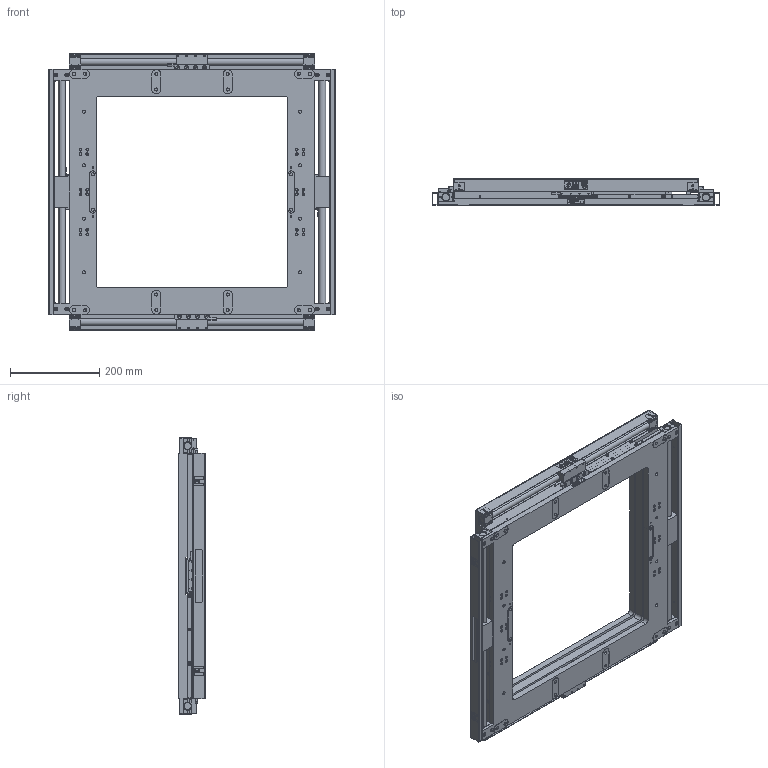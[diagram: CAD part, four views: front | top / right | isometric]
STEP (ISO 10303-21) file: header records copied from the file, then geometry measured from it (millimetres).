
FILE_DESCRIPTION (( 'STEP AP203' ), '1' );
FILE_NAME ('PLE-550-550-S320-EC0001-TD 中空XY轴精密位移模组(商用3D档).STEP', '2025-09-29T07:55:04', ( '' ), ( '' ), 'SwSTEP 2.0', 'SolidWorks 2022', '' );
FILE_SCHEMA (( 'CONFIG_CONTROL_DESIGN' ));
Products named in the file (1): PLE-550-550-S320-EC0001-TD 中空XY轴精密位移模组(商用3D档)
Bounding box: 644 x 60 x 622.69 mm (x, y, z)
Surface area: 1336559.7 mm2 (no closed solid volume)
Topology: 0 solids, 120 shells, 1423 faces, 6877 edges, 5479 vertices
Faces by surface type: cylinder 618, plane 596, cone 197, bspline 12
Entity records: 75382 total; most frequent: CARTESIAN_POINT 20745, DIRECTION 10981, ORIENTED_EDGE 9805, EDGE_CURVE 6877, VERTEX_POINT 5479, AXIS2_PLACEMENT_3D 3661, LINE 3659, VECTOR 3659
